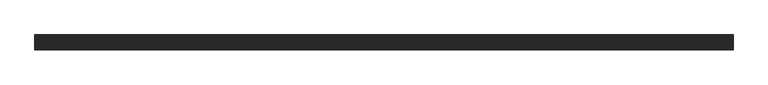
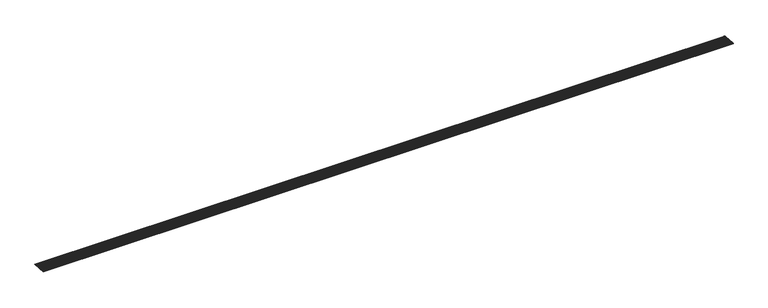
"""IFC4 building model written with IfcOpenShell, lengths in millimetres: slab geometry, ROSA GRES_001 (2 filas) : Piezas 001_Aqua_Blanco_Anti-Slip."""

from ifc_helpers import new_model, si_unit, point, frame, frame_2d, origin, place, context, project, spatial, polyline, circle_curve, trimmed, segment, composite_curve, outline, extrude, source, transform, mapped, element, save


def slab_fd2e0ca4(model_context):
    return source(origin(), model_context, "Body", "SweptSolid", [
        extrude(outline(polyline([(0.0, 118.9996), (11502.2095207, 118.9996), (11502.2095207, 0.0), (0.0, 0.0), (0.0, 118.9996)])), frame((11502.2095207, -124.0577627, 199.6968204), z_axis=(0.0, 0.08112705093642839, 0.9967037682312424), x_axis=(-1.0, 0.0, 0.0)), (0.0, 0.0, 1.0), 5.0),
        extrude(outline(polyline([(0.0, 118.9996), (11502.2095207, 118.9996), (11502.2095207, 0.0), (0.0, 0.0), (0.0, 118.9996)])), frame((11502.2095207, -248.6453351, 209.8376693), z_axis=(0.0, 0.08112705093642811, 0.9967037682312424), x_axis=(-1.0, 0.0, 0.0)), (0.0, 0.0, 1.0), 5.0),
        extrude(outline(composite_curve([segment(polyline([(-242.2594772, 214.3344258), (-242.046278, 216.9537305)]), True, "CONTINUOUS"), segment(trimmed(circle_curve(frame_2d((-241.5926747, 222.5265709)), 5.5912705), [point((-242.046278, 216.9537305))], [point((-237.6514463, 218.5605875))], True, "CARTESIAN"), True, "CONTINUOUS"), segment(trimmed(circle_curve(frame_2d((-233.1207211, 221.8369933)), 5.5912705), [point((-237.6514463, 218.5605875))], [point((-229.1794928, 217.8710099))], True, "CARTESIAN"), True, "CONTINUOUS"), segment(trimmed(circle_curve(frame_2d((-224.6487676, 221.1474157)), 5.5912705), [point((-229.1794928, 217.8710099))], [point((-220.7075392, 217.1814322))], True, "CARTESIAN"), True, "CONTINUOUS"), segment(trimmed(circle_curve(frame_2d((-216.176814, 220.457838)), 5.5912705), [point((-220.7075392, 217.1814322))], [point((-212.2355856, 216.4918546))], True, "CARTESIAN"), True, "CONTINUOUS"), segment(trimmed(circle_curve(frame_2d((-207.7048605, 219.7682604)), 5.5912705), [point((-212.2355856, 216.4918546))], [point((-203.7636321, 215.802277))], True, "CARTESIAN"), True, "CONTINUOUS"), segment(trimmed(circle_curve(frame_2d((-199.2329069, 219.0786828)), 5.5912705), [point((-203.7636321, 215.802277))], [point((-195.2916785, 215.1126994))], True, "CARTESIAN"), True, "CONTINUOUS"), segment(trimmed(circle_curve(frame_2d((-190.7609534, 218.3891052)), 5.5912705), [point((-195.2916785, 215.1126994))], [point((-186.819725, 214.4231218))], True, "CARTESIAN"), True, "CONTINUOUS"), segment(trimmed(circle_curve(frame_2d((-182.2889998, 217.6995276)), 5.5912705), [point((-186.819725, 214.4231218))], [point((-178.3477714, 213.7335442))], True, "CARTESIAN"), True, "CONTINUOUS"), segment(trimmed(circle_curve(frame_2d((-173.8170463, 217.00995)), 5.5912705), [point((-178.3477714, 213.7335442))], [point((-169.8758179, 213.0439666))], True, "CARTESIAN"), True, "CONTINUOUS"), segment(trimmed(circle_curve(frame_2d((-165.3450927, 216.3203723)), 5.5912705), [point((-169.8758179, 213.0439666))], [point((-161.4038643, 212.3543889))], True, "CARTESIAN"), True, "CONTINUOUS"), segment(trimmed(circle_curve(frame_2d((-156.8731392, 215.6307947)), 5.5912705), [point((-161.4038643, 212.3543889))], [point((-152.9319108, 211.6648113))], True, "CARTESIAN"), True, "CONTINUOUS"), segment(trimmed(circle_curve(frame_2d((-148.4011856, 214.9412171)), 5.5912705), [point((-152.9319108, 211.6648113))], [point((-144.4599572, 210.9752337))], True, "CARTESIAN"), True, "CONTINUOUS"), segment(trimmed(circle_curve(frame_2d((-139.929232, 214.2516395)), 5.5912705), [point((-144.4599572, 210.9752337))], [point((-135.9880037, 210.2856561))], True, "CARTESIAN"), True, "CONTINUOUS"), segment(trimmed(circle_curve(frame_2d((-131.4572785, 213.5620619)), 5.5912705), [point((-135.9880037, 210.2856561))], [point((-127.5160501, 209.5960785))], True, "CARTESIAN"), True, "CONTINUOUS"), segment(trimmed(circle_curve(frame_2d((-122.9853249, 212.8724843)), 5.5912705), [point((-127.5160501, 209.5960785))], [point((-123.4389282, 207.2996439))], True, "CARTESIAN"), True, "CONTINUOUS"), segment(polyline([(-123.4389282, 207.2996439), (-123.6521274, 204.6803392), (-242.2594772, 214.3344258)]), True, "CONTINUOUS")], self_intersect=False)), frame((0.0, 0.0, 0.0), z_axis=(1.0, 0.0, 0.0), x_axis=(0.0, 1.0, 0.0)), (0.0, 0.0, 1.0), 11502.2095207),
        extrude(outline(composite_curve([segment(polyline([(-366.8470495, 224.4752747), (-366.6338503, 227.0945794)]), True, "CONTINUOUS"), segment(trimmed(circle_curve(frame_2d((-366.180247, 232.6674198)), 5.5912705), [point((-366.6338503, 227.0945794))], [point((-362.2390187, 228.7014364))], True, "CARTESIAN"), True, "CONTINUOUS"), segment(trimmed(circle_curve(frame_2d((-357.7082935, 231.9778422)), 5.5912705), [point((-362.2390187, 228.7014364))], [point((-353.7670651, 228.0118588))], True, "CARTESIAN"), True, "CONTINUOUS"), segment(trimmed(circle_curve(frame_2d((-349.2363399, 231.2882646)), 5.5912705), [point((-353.7670651, 228.0118588))], [point((-345.2951115, 227.3222812))], True, "CARTESIAN"), True, "CONTINUOUS"), segment(trimmed(circle_curve(frame_2d((-340.7643864, 230.5986869)), 5.5912705), [point((-345.2951115, 227.3222812))], [point((-336.823158, 226.6327035))], True, "CARTESIAN"), True, "CONTINUOUS"), segment(trimmed(circle_curve(frame_2d((-332.2924328, 229.9091093)), 5.5912705), [point((-336.823158, 226.6327035))], [point((-328.3512044, 225.9431259))], True, "CARTESIAN"), True, "CONTINUOUS"), segment(trimmed(circle_curve(frame_2d((-323.8204793, 229.2195317)), 5.5912705), [point((-328.3512044, 225.9431259))], [point((-319.8792509, 225.2535483))], True, "CARTESIAN"), True, "CONTINUOUS"), segment(trimmed(circle_curve(frame_2d((-315.3485257, 228.5299541)), 5.5912705), [point((-319.8792509, 225.2535483))], [point((-311.4072973, 224.5639707))], True, "CARTESIAN"), True, "CONTINUOUS"), segment(trimmed(circle_curve(frame_2d((-306.8765722, 227.8403765)), 5.5912705), [point((-311.4072973, 224.5639707))], [point((-302.9353438, 223.8743931))], True, "CARTESIAN"), True, "CONTINUOUS"), segment(trimmed(circle_curve(frame_2d((-298.4046186, 227.1507989)), 5.5912705), [point((-302.9353438, 223.8743931))], [point((-294.4633902, 223.1848155))], True, "CARTESIAN"), True, "CONTINUOUS"), segment(trimmed(circle_curve(frame_2d((-289.9326651, 226.4612213)), 5.5912705), [point((-294.4633902, 223.1848155))], [point((-285.9914367, 222.4952379))], True, "CARTESIAN"), True, "CONTINUOUS"), segment(trimmed(circle_curve(frame_2d((-281.4607115, 225.7716436)), 5.5912705), [point((-285.9914367, 222.4952379))], [point((-277.5194831, 221.8056602))], True, "CARTESIAN"), True, "CONTINUOUS"), segment(trimmed(circle_curve(frame_2d((-272.9887579, 225.082066)), 5.5912705), [point((-277.5194831, 221.8056602))], [point((-269.0475296, 221.1160826))], True, "CARTESIAN"), True, "CONTINUOUS"), segment(trimmed(circle_curve(frame_2d((-264.5168044, 224.3924884)), 5.5912705), [point((-269.0475296, 221.1160826))], [point((-260.575576, 220.426505))], True, "CARTESIAN"), True, "CONTINUOUS"), segment(trimmed(circle_curve(frame_2d((-256.0448508, 223.7029108)), 5.5912705), [point((-260.575576, 220.426505))], [point((-252.1036225, 219.7369274))], True, "CARTESIAN"), True, "CONTINUOUS"), segment(trimmed(circle_curve(frame_2d((-247.5728973, 223.0133332)), 5.5912705), [point((-252.1036225, 219.7369274))], [point((-248.0265006, 217.4404928))], True, "CARTESIAN"), True, "CONTINUOUS"), segment(polyline([(-248.0265006, 217.4404928), (-248.2396998, 214.8211881), (-366.8470495, 224.4752747)]), True, "CONTINUOUS")], self_intersect=False)), frame((0.0, 0.0, 0.0), z_axis=(1.0, 0.0, 0.0), x_axis=(0.0, 1.0, 0.0)), (0.0, 0.0, 1.0), 11502.2095207),
    ])


if __name__ == "__main__":
    model = new_model("IFC4")
    model_context = context("Model", 3, world=origin())
    ifc_project = project(units=[si_unit("LENGTHUNIT", "METRE", prefix="MILLI")], contexts=[model_context])
    site = spatial("IfcSite", under=ifc_project)
    building = spatial("IfcBuilding", under=site)
    placement = place(None, origin())
    slab_shape = slab_fd2e0ca4(model_context)
    element("IfcSlab", 1, ObjectType="ROSA GRES_001 (2 filas) : Piezas 001_Aqua_Blanco_Anti-Slip", at=placement, inside=building, context=model_context, shape_type="MappedRepresentation", body=[
        mapped(slab_shape, transform((0.0, 0.0, 0.0), x_axis=(1.0, 0.0, 0.0), y_axis=(0.0, 1.0, 0.0), z_axis=(0.0, 0.0, 1.0))),
    ])
    save(model, "model.ifc")
